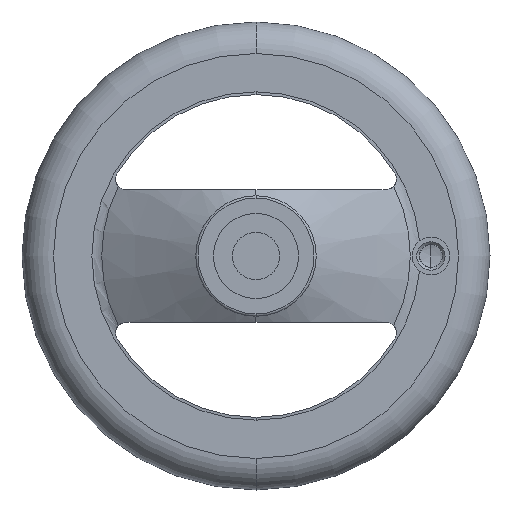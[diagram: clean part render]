
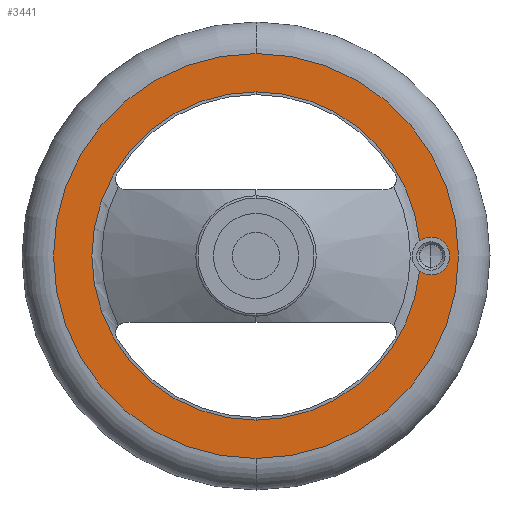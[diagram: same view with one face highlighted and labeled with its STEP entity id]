
A CAD part, front view. The second image highlights one B-rep face of the part: STEP entity #3441.
In plain terms, the highlighted planar face has unit normal (0, -1, 0).
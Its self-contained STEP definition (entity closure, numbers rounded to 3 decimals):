
#15 = AXIS2_PLACEMENT_3D ( 'NONE', #2109, #908, #3538 ) ;
#120 = EDGE_CURVE ( 'NONE', #557, #2486, #2430, .T. ) ;
#168 = AXIS2_PLACEMENT_3D ( 'NONE', #2726, #334, #577 ) ;
#199 = CARTESIAN_POINT ( 'NONE',  ( -34.722, 17., 0. ) ) ;
#258 = DIRECTION ( 'NONE',  ( 0., 1., 0. ) ) ;
#296 = AXIS2_PLACEMENT_3D ( 'NONE', #2286, #711, #3427 ) ;
#298 = CARTESIAN_POINT ( 'NONE',  ( 0., 17., -34.722 ) ) ;
#334 = DIRECTION ( 'NONE',  ( 0., 1., 0. ) ) ;
#505 = DIRECTION ( 'NONE',  ( 0., 0., 1. ) ) ;
#557 = VERTEX_POINT ( 'NONE', #1935 ) ;
#577 = DIRECTION ( 'NONE',  ( 0., 0., 1. ) ) ;
#593 = DIRECTION ( 'NONE',  ( 0., 1., 0. ) ) ;
#711 = DIRECTION ( 'NONE',  ( 0., -1., 0. ) ) ;
#744 = CARTESIAN_POINT ( 'NONE',  ( 37., 17., 4. ) ) ;
#748 = CARTESIAN_POINT ( 'NONE',  ( 0., 17., 0. ) ) ;
#791 = CIRCLE ( 'NONE', #3166, 42.833 ) ;
#801 = CARTESIAN_POINT ( 'NONE',  ( 0., 17., 0. ) ) ;
#838 = AXIS2_PLACEMENT_3D ( 'NONE', #1684, #1706, #1726 ) ;
#859 = ORIENTED_EDGE ( 'NONE', *, *, #2008, .F. ) ;
#884 = PLANE ( 'NONE',  #1225 ) ;
#906 = AXIS2_PLACEMENT_3D ( 'NONE', #1182, #593, #3537 ) ;
#908 = DIRECTION ( 'NONE',  ( 0., -1., 0. ) ) ;
#933 = VERTEX_POINT ( 'NONE', #1902 ) ;
#979 = CIRCLE ( 'NONE', #1912, 34.722 ) ;
#992 = VERTEX_POINT ( 'NONE', #2551 ) ;
#1004 = DIRECTION ( 'NONE',  ( 0., 0., 1. ) ) ;
#1182 = CARTESIAN_POINT ( 'NONE',  ( 0., 17., 0. ) ) ;
#1225 = AXIS2_PLACEMENT_3D ( 'NONE', #199, #258, #1392 ) ;
#1345 = EDGE_LOOP ( 'NONE', ( #859, #3049, #3336, #3244, #3501, #2374 ) ) ;
#1392 = DIRECTION ( 'NONE',  ( 1., 0., 0. ) ) ;
#1477 = CARTESIAN_POINT ( 'NONE',  ( 37., 17., -4. ) ) ;
#1548 = EDGE_CURVE ( 'NONE', #992, #3462, #979, .T. ) ;
#1684 = CARTESIAN_POINT ( 'NONE',  ( 37., 17., 0. ) ) ;
#1706 = DIRECTION ( 'NONE',  ( 0., -1., 0. ) ) ;
#1726 = DIRECTION ( 'NONE',  ( 0., 0., 1. ) ) ;
#1818 = EDGE_CURVE ( 'NONE', #933, #3692, #791, .T. ) ;
#1902 = CARTESIAN_POINT ( 'NONE',  ( 0., 17., -42.833 ) ) ;
#1912 = AXIS2_PLACEMENT_3D ( 'NONE', #801, #1991, #505 ) ;
#1935 = CARTESIAN_POINT ( 'NONE',  ( 0., 17., 34.722 ) ) ;
#1991 = DIRECTION ( 'NONE',  ( 0., 1., 0. ) ) ;
#2008 = EDGE_CURVE ( 'NONE', #992, #3008, #2298, .T. ) ;
#2024 = CIRCLE ( 'NONE', #906, 34.722 ) ;
#2031 = FACE_BOUND ( 'NONE', #1345, .T. ) ;
#2035 = CIRCLE ( 'NONE', #168, 42.833 ) ;
#2064 = ORIENTED_EDGE ( 'NONE', *, *, #2178, .F. ) ;
#2109 = CARTESIAN_POINT ( 'NONE',  ( 37., 17., 0. ) ) ;
#2178 = EDGE_CURVE ( 'NONE', #3692, #933, #2035, .T. ) ;
#2228 = DIRECTION ( 'NONE',  ( 0., 0., 1. ) ) ;
#2256 = DIRECTION ( 'NONE',  ( 0., 1., 0. ) ) ;
#2262 = CIRCLE ( 'NONE', #838, 4. ) ;
#2286 = CARTESIAN_POINT ( 'NONE',  ( 37., 17., 0. ) ) ;
#2298 = CIRCLE ( 'NONE', #296, 4. ) ;
#2309 = DIRECTION ( 'NONE',  ( 0., 1., 0. ) ) ;
#2352 = EDGE_CURVE ( 'NONE', #3008, #3436, #2262, .T. ) ;
#2374 = ORIENTED_EDGE ( 'NONE', *, *, #2352, .F. ) ;
#2430 = CIRCLE ( 'NONE', #3113, 34.722 ) ;
#2447 = CIRCLE ( 'NONE', #15, 4. ) ;
#2486 = VERTEX_POINT ( 'NONE', #3827 ) ;
#2551 = CARTESIAN_POINT ( 'NONE',  ( 34.575, 17., -3.181 ) ) ;
#2717 = EDGE_CURVE ( 'NONE', #3436, #2486, #2447, .T. ) ;
#2726 = CARTESIAN_POINT ( 'NONE',  ( 0., 17., 0. ) ) ;
#2829 = ORIENTED_EDGE ( 'NONE', *, *, #1818, .F. ) ;
#2902 = FACE_OUTER_BOUND ( 'NONE', #3062, .T. ) ;
#3008 = VERTEX_POINT ( 'NONE', #1477 ) ;
#3049 = ORIENTED_EDGE ( 'NONE', *, *, #1548, .T. ) ;
#3062 = EDGE_LOOP ( 'NONE', ( #2064, #2829 ) ) ;
#3113 = AXIS2_PLACEMENT_3D ( 'NONE', #748, #2256, #1004 ) ;
#3166 = AXIS2_PLACEMENT_3D ( 'NONE', #3453, #2309, #2228 ) ;
#3177 = EDGE_CURVE ( 'NONE', #3462, #557, #2024, .T. ) ;
#3244 = ORIENTED_EDGE ( 'NONE', *, *, #120, .T. ) ;
#3336 = ORIENTED_EDGE ( 'NONE', *, *, #3177, .T. ) ;
#3427 = DIRECTION ( 'NONE',  ( 0., 0., 1. ) ) ;
#3436 = VERTEX_POINT ( 'NONE', #744 ) ;
#3441 = ADVANCED_FACE ( 'NONE', ( #2031, #2902 ), #884, .F. ) ;
#3453 = CARTESIAN_POINT ( 'NONE',  ( 0., 17., 0. ) ) ;
#3462 = VERTEX_POINT ( 'NONE', #298 ) ;
#3501 = ORIENTED_EDGE ( 'NONE', *, *, #2717, .F. ) ;
#3515 = CARTESIAN_POINT ( 'NONE',  ( 0., 17., 42.833 ) ) ;
#3537 = DIRECTION ( 'NONE',  ( 0., 0., 1. ) ) ;
#3538 = DIRECTION ( 'NONE',  ( 0., 0., 1. ) ) ;
#3692 = VERTEX_POINT ( 'NONE', #3515 ) ;
#3827 = CARTESIAN_POINT ( 'NONE',  ( 34.575, 17., 3.181 ) ) ;
